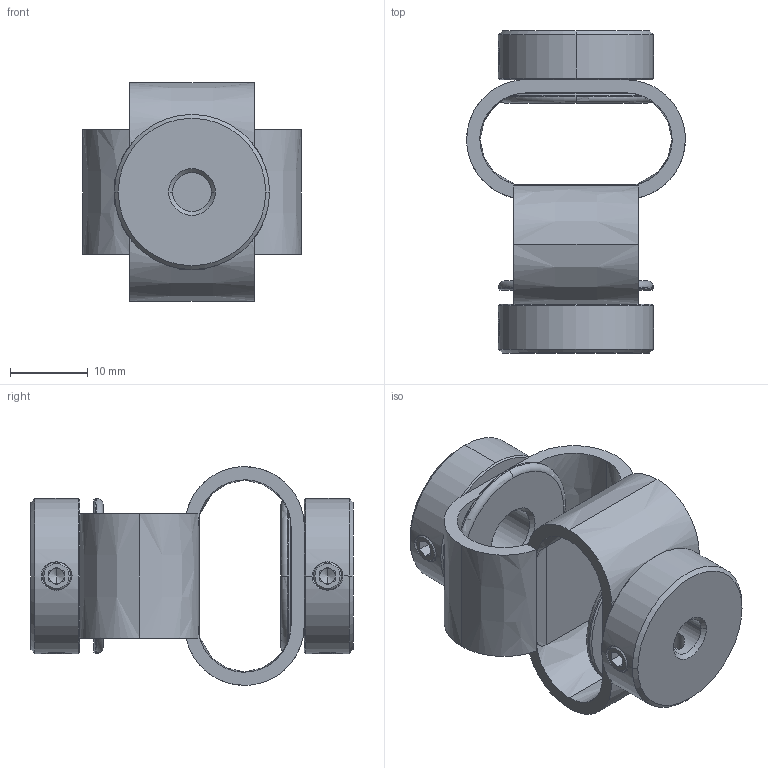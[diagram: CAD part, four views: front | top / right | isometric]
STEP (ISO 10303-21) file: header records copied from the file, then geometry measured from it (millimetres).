
FILE_DESCRIPTION (( 'STEP AP203' ), '1' );
FILE_NAME ('LS-D-D27L40-5-7.STEP', '2021-10-28T06:09:33', ( '' ), ( '' ), 'SwSTEP 2.0', 'SolidWorks 2018', '' );
FILE_SCHEMA (( 'CONFIG_CONTROL_DESIGN' ));
Length unit declared in the file: millimetre
Products named in the file (1): LS-D-D27L40-5-7
Bounding box: 28.2 x 41.54 x 28.2 mm (x, y, z)
Volume: 7293.5 mm3; surface area: 6692.6 mm2
Topology: 1 solids, 1 shells, 190 faces, 490 edges, 306 vertices
Faces by surface type: plane 86, cone 54, cylinder 30, bspline 16, torus 4
Entity records: 7771 total; most frequent: CARTESIAN_POINT 3213, ORIENTED_EDGE 964, DIRECTION 886, EDGE_CURVE 482, AXIS2_PLACEMENT_3D 345, VERTEX_POINT 306, EDGE_LOOP 218, LINE 196
